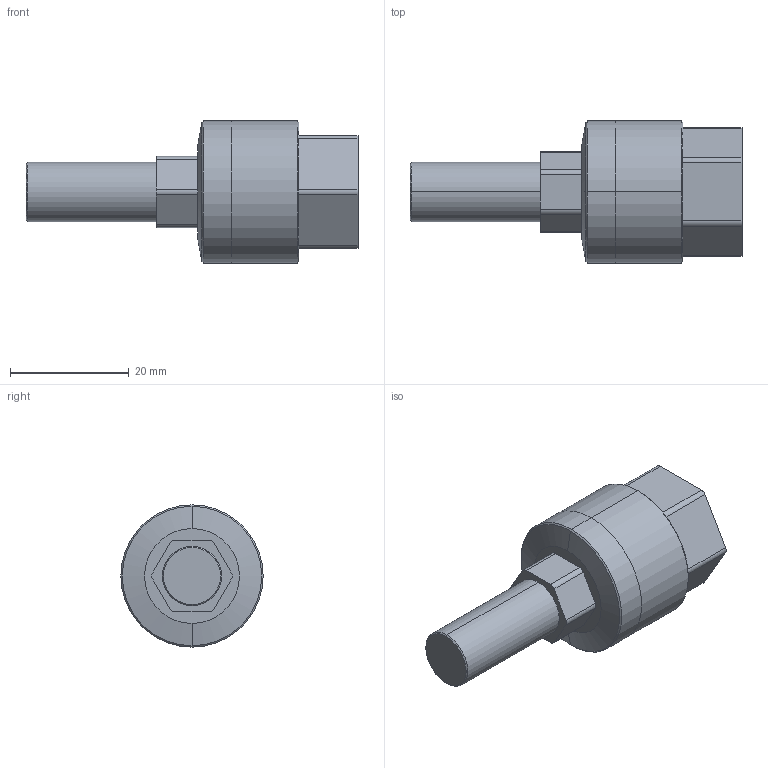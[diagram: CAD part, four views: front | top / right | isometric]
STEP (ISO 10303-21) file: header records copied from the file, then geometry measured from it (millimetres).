
FILE_DESCRIPTION (( 'STEP AP203' ), '1' );
FILE_NAME ('FCM10-1.5.STEP', '2016-03-23T03:40:38', ( 'Sam Lin' ), ( '' ), 'SwSTEP 2.0', 'SolidWorks 2013', '' );
FILE_SCHEMA (( 'CONFIG_CONTROL_DESIGN' ));
Length unit declared in the file: millimetre
Products named in the file (1): FCM10-1.5
Bounding box: 56 x 24 x 24 mm (x, y, z)
Volume: 12408.7 mm3; surface area: 4143.3 mm2
Topology: 1 solids, 1 shells, 47 faces, 114 edges, 71 vertices
Faces by surface type: cylinder 20, plane 17, cone 10
Entity records: 1441 total; most frequent: DIRECTION 254, CARTESIAN_POINT 231, ORIENTED_EDGE 224, EDGE_CURVE 112, AXIS2_PLACEMENT_3D 94, VERTEX_POINT 71, VECTOR 66, LINE 66
